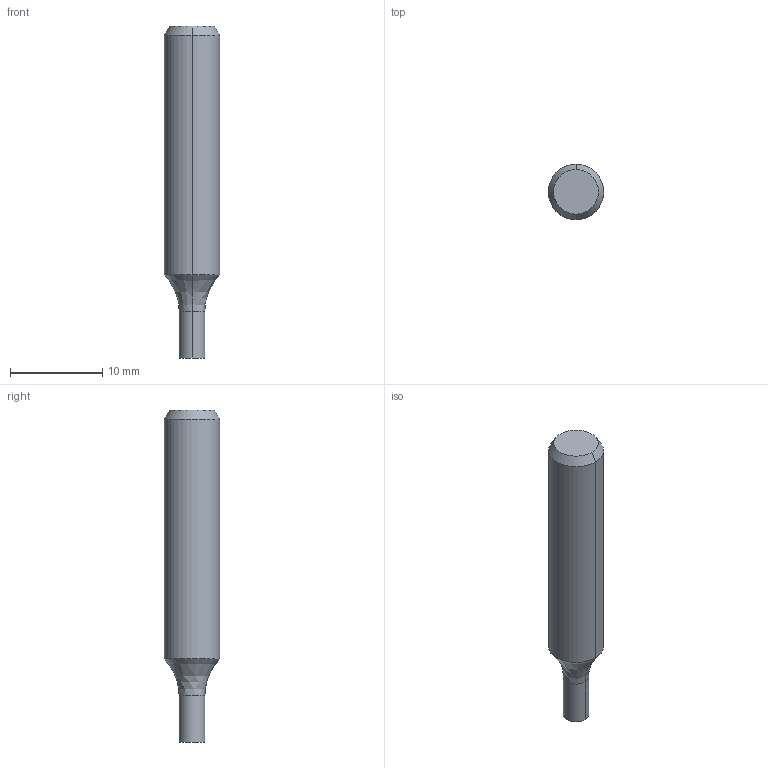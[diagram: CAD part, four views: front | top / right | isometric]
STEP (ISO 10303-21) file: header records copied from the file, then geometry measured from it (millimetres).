
FILE_DESCRIPTION((''),'2;1');
FILE_NAME('DIN4003_82_HEURO','2018-10-10T',('moesset'),(''),'PRO/ENGINEER BY PARAMETRIC TECHNOLOGY CORPORATION, 2015280','PRO/ENGINEER BY PARAMETRIC TECHNOLOGY CORPORATION, 2015280','');
FILE_SCHEMA(('AUTOMOTIVE_DESIGN { 1 0 10303 214 1 1 1 1 }'));
Length unit declared in the file: millimetre
Products named in the file (1): DIN4003_82_HEURO
Bounding box: 6 x 6 x 36 mm (x, y, z)
Volume: 837.2 mm3; surface area: 632.2 mm2
Topology: 1 solids, 1 shells, 10 faces, 20 edges, 13 vertices
Faces by surface type: bspline 10
Entity records: 731 total; most frequent: CARTESIAN_POINT 305, DIRECTION 61, ORIENTED_EDGE 36, AXIS2_PLACEMENT_3D 24, PRESENTATION_STYLE_ASSIGNMENT 20, STYLED_ITEM 20, COLOUR_RGB 18, EDGE_CURVE 18
